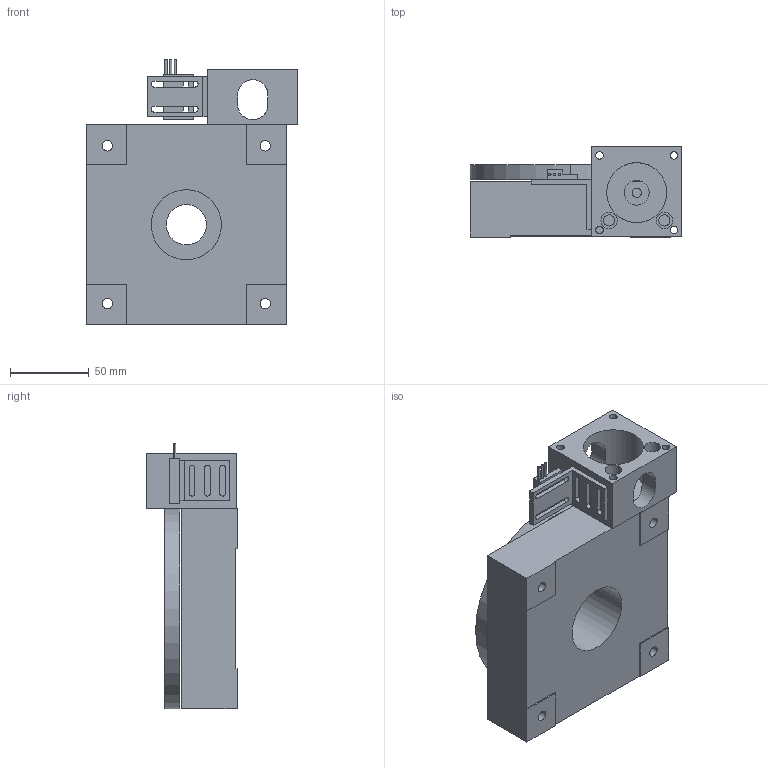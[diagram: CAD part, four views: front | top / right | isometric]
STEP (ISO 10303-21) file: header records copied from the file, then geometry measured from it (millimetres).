
FILE_DESCRIPTION((''),'2;1');
FILE_NAME('M5-ROTARY_ASM','2005-02-18T',('BF20108'),(''),'PRO/ENGINEER BY PARAMETRIC TECHNOLOGY CORPORATION, 2004400','PRO/ENGINEER BY PARAMETRIC TECHNOLOGY CORPORATION, 2004400','');
FILE_SCHEMA(('CONFIG_CONTROL_DESIGN'));
Products named in the file (7): M5RO-BASE; M5RO-TOP; M23-MB-02; 000-4457-SW-BRKT; 003-1145-SWITCH; ROTARY-TBL-HOME-SW_ASM; M5-ROTARY_ASM
Assembly tree (6 placements, depth 3):
  M5-ROTARY_ASM
    M5RO-BASE
    M5RO-TOP
    M23-MB-02
    ROTARY-TBL-HOME-SW_ASM
      000-4457-SW-BRKT
      003-1145-SWITCH
Bounding box: 134.18 x 57.31 x 168.49 mm (x, y, z)
Volume: 678365.3 mm3; surface area: 113823 mm2
Topology: 5 solids, 5 shells, 155 faces, 412 edges, 274 vertices
Faces by surface type: cylinder 84, plane 71
Entity records: 5288 total; most frequent: CARTESIAN_POINT 963, DIRECTION 908, ORIENTED_EDGE 824, EDGE_CURVE 412, AXIS2_PLACEMENT_3D 336, VERTEX_POINT 274, VECTOR 236, LINE 236
